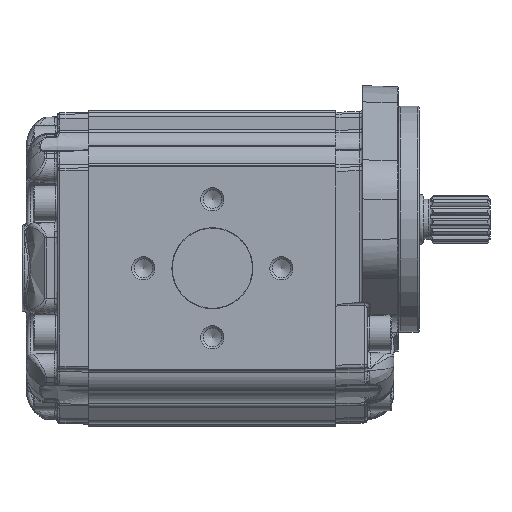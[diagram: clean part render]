
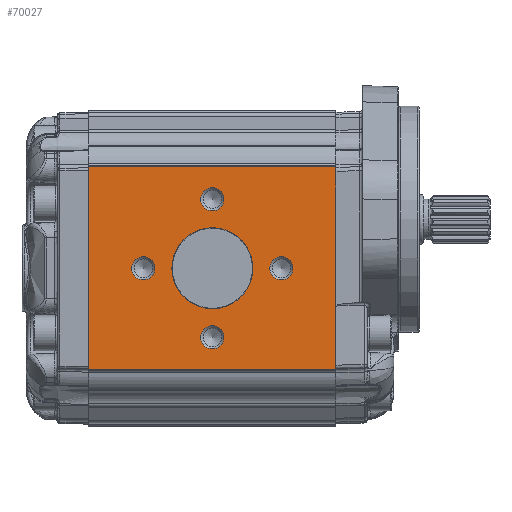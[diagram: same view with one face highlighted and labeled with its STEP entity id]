
A CAD part, left-side view. The second image highlights one B-rep face of the part: STEP entity #70027.
In plain terms, the highlighted planar face has unit normal (-1, 0, 0).
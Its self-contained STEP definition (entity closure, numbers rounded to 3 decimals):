
#8105=LINE('',#122467,#10119);
#8116=LINE('',#122551,#10130);
#8162=LINE('',#122717,#10176);
#8163=LINE('',#122718,#10177);
#10119=VECTOR('',#77549,1000.);
#10130=VECTOR('',#77624,1000.);
#10176=VECTOR('',#77802,1000.);
#10177=VECTOR('',#77803,1000.);
#16526=ORIENTED_EDGE('',*,*,#29327,.T.);
#16527=ORIENTED_EDGE('',*,*,#29328,.T.);
#16528=ORIENTED_EDGE('',*,*,#29329,.T.);
#16529=ORIENTED_EDGE('',*,*,#29330,.T.);
#16530=ORIENTED_EDGE('',*,*,#29331,.T.);
#16531=ORIENTED_EDGE('',*,*,#29202,.F.);
#16532=ORIENTED_EDGE('',*,*,#29332,.T.);
#16533=ORIENTED_EDGE('',*,*,#29244,.F.);
#16534=ORIENTED_EDGE('',*,*,#29333,.T.);
#29202=EDGE_CURVE('',#35928,#35929,#8105,.T.);
#29244=EDGE_CURVE('',#35970,#35971,#8116,.T.);
#29327=EDGE_CURVE('',#36019,#36019,#39824,.F.);
#29328=EDGE_CURVE('',#36020,#36020,#39825,.F.);
#29329=EDGE_CURVE('',#36021,#36021,#39826,.F.);
#29330=EDGE_CURVE('',#36022,#36022,#39827,.F.);
#29331=EDGE_CURVE('',#36023,#36023,#39828,.F.);
#29332=EDGE_CURVE('',#35928,#35971,#8162,.F.);
#29333=EDGE_CURVE('',#35970,#35929,#8163,.F.);
#35928=VERTEX_POINT('',#122466);
#35929=VERTEX_POINT('',#122468);
#35970=VERTEX_POINT('',#122552);
#35971=VERTEX_POINT('',#122553);
#36019=VERTEX_POINT('',#122708);
#36020=VERTEX_POINT('',#122710);
#36021=VERTEX_POINT('',#122712);
#36022=VERTEX_POINT('',#122714);
#36023=VERTEX_POINT('',#122716);
#39824=CIRCLE('',#73302,5.188);
#39825=CIRCLE('',#73303,5.188);
#39826=CIRCLE('',#73304,5.188);
#39827=CIRCLE('',#73305,5.188);
#39828=CIRCLE('',#73306,18.2);
#41152=EDGE_LOOP('',(#16526));
#41153=EDGE_LOOP('',(#16527));
#41154=EDGE_LOOP('',(#16528));
#41155=EDGE_LOOP('',(#16529));
#41156=EDGE_LOOP('',(#16530));
#41157=EDGE_LOOP('',(#16531,#16532,#16533,#16534));
#44498=FACE_BOUND('',#41152,.T.);
#44499=FACE_BOUND('',#41153,.T.);
#44500=FACE_BOUND('',#41154,.T.);
#44501=FACE_BOUND('',#41155,.T.);
#44502=FACE_BOUND('',#41156,.T.);
#44503=FACE_BOUND('',#41157,.T.);
#46937=PLANE('',#73301);
#70027=ADVANCED_FACE('',(#44498,#44499,#44500,#44501,#44502,#44503),#46937,
 .T.);
#73301=AXIS2_PLACEMENT_3D('',#122706,#77790,#77791);
#73302=AXIS2_PLACEMENT_3D('',#122707,#77792,#77793);
#73303=AXIS2_PLACEMENT_3D('',#122709,#77794,#77795);
#73304=AXIS2_PLACEMENT_3D('',#122711,#77796,#77797);
#73305=AXIS2_PLACEMENT_3D('',#122713,#77798,#77799);
#73306=AXIS2_PLACEMENT_3D('',#122715,#77800,#77801);
#77549=DIRECTION('',(0.,0.,1.));
#77624=DIRECTION('',(0.,0.,-1.));
#77790=DIRECTION('',(-1.,0.,0.));
#77791=DIRECTION('',(0.,0.,-1.));
#77792=DIRECTION('',(-1.,0.,0.));
#77793=DIRECTION('',(0.,0.,-1.));
#77794=DIRECTION('',(-1.,0.,0.));
#77795=DIRECTION('',(0.,0.,-1.));
#77796=DIRECTION('',(-1.,0.,0.));
#77797=DIRECTION('',(0.,0.,-1.));
#77798=DIRECTION('',(-1.,0.,0.));
#77799=DIRECTION('',(0.,0.,-1.));
#77800=DIRECTION('',(-1.,0.,0.));
#77801=DIRECTION('',(0.,0.,-1.));
#77802=DIRECTION('',(0.,1.,0.));
#77803=DIRECTION('',(0.,-1.,0.));
#122466=CARTESIAN_POINT('',(-57.5,111.,-45.5));
#122467=CARTESIAN_POINT('',(-57.5,111.,-91.388));
#122468=CARTESIAN_POINT('',(-57.5,111.,45.5));
#122551=CARTESIAN_POINT('',(-57.5,0.,44.978));
#122552=CARTESIAN_POINT('',(-57.5,0.,45.5));
#122553=CARTESIAN_POINT('',(-57.5,0.,-45.5));
#122706=CARTESIAN_POINT('',(-57.5,-127.87,-91.388));
#122707=CARTESIAN_POINT('',(-57.5,55.5,-31.));
#122708=CARTESIAN_POINT('',(-57.5,55.5,-36.188));
#122709=CARTESIAN_POINT('',(-57.5,24.5,0.));
#122710=CARTESIAN_POINT('',(-57.5,24.5,-5.188));
#122711=CARTESIAN_POINT('',(-57.5,55.5,31.));
#122712=CARTESIAN_POINT('',(-57.5,55.5,25.812));
#122713=CARTESIAN_POINT('',(-57.5,86.5,0.));
#122714=CARTESIAN_POINT('',(-57.5,86.5,-5.188));
#122715=CARTESIAN_POINT('',(-57.5,55.5,0.));
#122716=CARTESIAN_POINT('',(-57.5,55.5,-18.2));
#122717=CARTESIAN_POINT('',(-57.5,-127.87,-45.5));
#122718=CARTESIAN_POINT('',(-57.5,-127.87,45.5));
